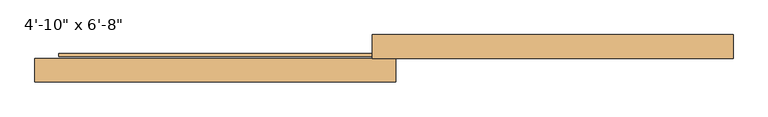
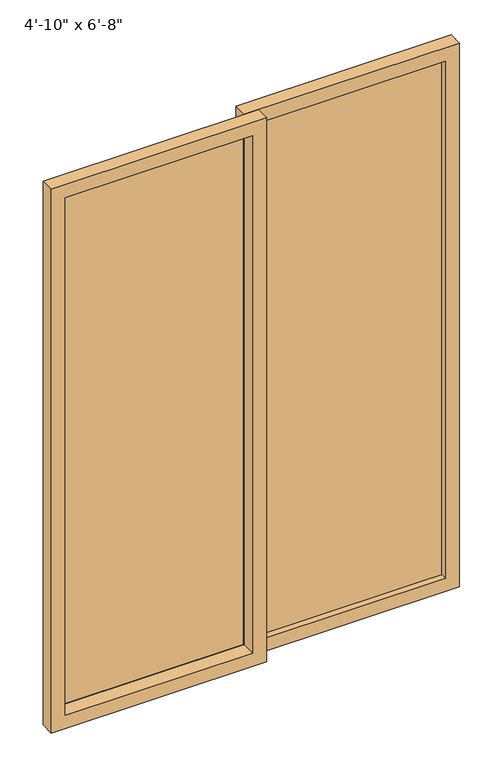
"""IFC4 building model written with IfcOpenShell, lengths in millimetres: door geometry."""

from ifc_helpers import new_model, si_unit, frame, origin, place, context, project, spatial, polyline, outline, extrude, source, transform, mapped, element, save


def door_a4a47613(model_context):
    return source(origin(), model_context, "Body", "SweptSolid", [
        extrude(outline(polyline([(2032.0, -25.0), (0.0, -25.0), (0.0, 736.6), (2032.0, 736.6), (2032.0, -25.0)]), holes=[polyline([(1982.0, 25.0), (1982.0, 686.6), (50.0, 686.6), (50.0, 25.0), (1982.0, 25.0)])]), frame((0.0, -210.35, 0.0), z_axis=(0.0, 1.0, 0.0), x_axis=(0.0, 0.0, 1.0)), (0.0, 0.0, 1.0), 50.0),
        extrude(outline(polyline([(2032.0, 25.0), (2032.0, -736.6), (0.0, -736.6), (0.0, 25.0), (2032.0, 25.0)]), holes=[polyline([(1982.0, -25.0), (50.0, -25.0), (50.0, -686.6), (1982.0, -686.6), (1982.0, -25.0)])]), frame((0.0, -260.35, 0.0), z_axis=(0.0, 1.0, 0.0), x_axis=(0.0, 0.0, 1.0)), (0.0, 0.0, 1.0), 50.0),
        extrude(outline(polyline([(25.0, -188.525), (25.0, -182.175), (686.6, -182.175), (686.6, -188.525), (25.0, -188.525)])), frame((0.0, 0.0, 50.0), z_axis=(0.0, 0.0, 1.0), x_axis=(1.0, 0.0, 0.0)), (0.0, 0.0, 1.0), 1932.0),
        extrude(outline(polyline([(-25.0, -200.025), (-25.0, -206.375), (-686.6, -206.375), (-686.6, -200.025), (-25.0, -200.025)])), frame((0.0, 0.0, 50.0), z_axis=(0.0, 0.0, 1.0), x_axis=(1.0, 0.0, 0.0)), (0.0, 0.0, 1.0), 1932.0),
    ])


if __name__ == "__main__":
    model = new_model("IFC4")
    model_context = context("Model", 3, world=origin())
    ifc_project = project(units=[si_unit("LENGTHUNIT", "METRE", prefix="MILLI")], contexts=[model_context])
    site = spatial("IfcSite", under=ifc_project)
    building = spatial("IfcBuilding", under=site)
    placement = place(None, origin())
    door_shape = door_a4a47613(model_context)
    element("IfcDoor", 1, ObjectType="Planitar - Double Sliding Door_Glass : 4'-10\" x 6'-8\"", at=placement, inside=building, context=model_context, shape_type="MappedRepresentation", body=[
        mapped(door_shape, transform((0.0, 0.0, 0.0), x_axis=(1.0, 0.0, 0.0), y_axis=(0.0, 1.0, 0.0), z_axis=(0.0, 0.0, 1.0))),
    ])
    save(model, "model.ifc")
